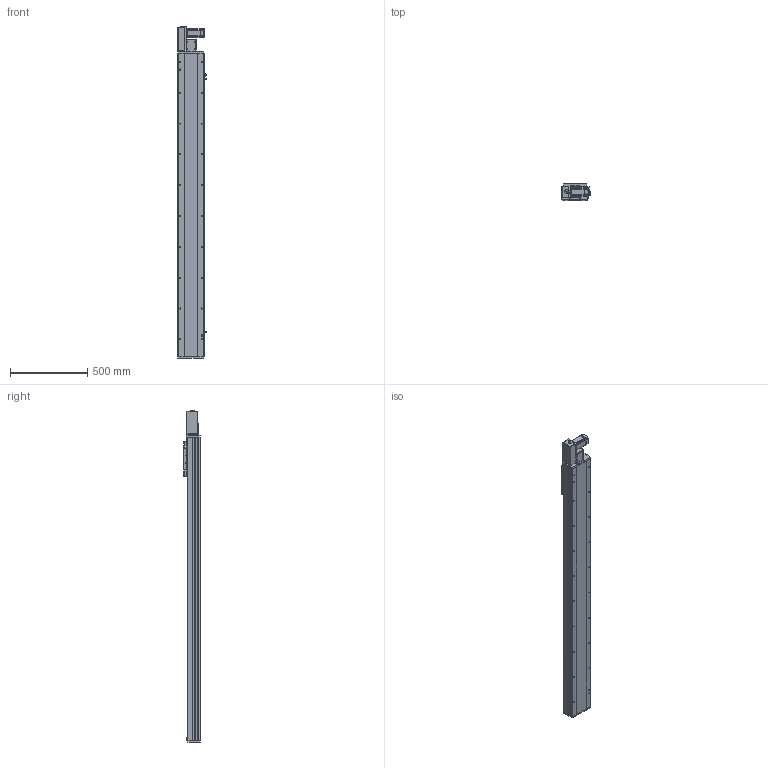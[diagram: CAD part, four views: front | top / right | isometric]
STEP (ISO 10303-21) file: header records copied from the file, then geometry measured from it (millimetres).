
FILE_DESCRIPTION (( 'STEP AP214' ), '1' );
FILE_NAME ('TPE17-L40-1650-L-T40-C4.STEP', '2023-04-12T02:29:18', ( '' ), ( '' ), 'SwSTEP 2.0', 'SolidWorks 2020', '' );
FILE_SCHEMA (( 'AUTOMOTIVE_DESIGN' ));
Length unit declared in the file: millimetre
Products named in the file (12): 葩璃 詩湍110^TPE17-L40-L-T40-C4; hex nuts, style 1-grades ab gb_GB_FASTENER_NUT_SNAB1 M3-N; 葩璃 TPT14-L-009 萇儂啣^TPE17-L40-L-T40-C4_400W; 葩璃 TPE17 賑雄殤^TPE17-L40-L-T40-C4; 葩璃 TPE17-L-007 々湍釱MZ-169x88^TPE17-L40-L-T40-C4_TPE17; 葩璃 pm-t65-672^TPE17-L40-L-T40-C4; 葩璃 TPE17-L-002 耜裔ZTMZ-135-04^TPE17-L40-L-T40-C4; 葩璃 TPE17-L-001 菁釱MZ-170-01^TPE17-L40-L-T40-C4; hexagon socket head cap screws gb_GB_FASTENER_SCREWS_HSHCS M3X6-N; 葩璃 侂狟400W^TPE17-L40-L-T40-C4; TPE17-L40-1650-L-T40-C4; hexagon head bolts-full thread gb_GB_FASTENER_BOLT_STBAB A M5X16-N
Assembly tree (24 placements, depth 2):
  TPE17-L40-1650-L-T40-C4
    葩璃 TPE17-L-001 菁釱MZ-170-01^TPE17-L40-L-T40-C4
    葩璃 TPE17-L-002 耜裔ZTMZ-135-04^TPE17-L40-L-T40-C4  x2
    葩璃 詩湍110^TPE17-L40-L-T40-C4
    葩璃 TPE17-L-007 々湍釱MZ-169x88^TPE17-L40-L-T40-C4_TPE17
    葩璃 TPT14-L-009 萇儂啣^TPE17-L40-L-T40-C4_400W
    葩璃 TPE17 賑雄殤^TPE17-L40-L-T40-C4
    葩璃 pm-t65-672^TPE17-L40-L-T40-C4  x3
    葩璃 侂狟400W^TPE17-L40-L-T40-C4
    hexagon socket head cap screws gb_GB_FASTENER_SCREWS_HSHCS M3X6-N  x6
    hex nuts, style 1-grades ab gb_GB_FASTENER_NUT_SNAB1 M3-N  x6
    hexagon head bolts-full thread gb_GB_FASTENER_BOLT_STBAB A M5X16-N
Bounding box: 183.7 x 107 x 2153.65 mm (x, y, z)
Volume: 18362185.3 mm3; surface area: 2387649.6 mm2
Topology: 35 solids, 35 shells, 1722 faces, 4387 edges, 2758 vertices
Faces by surface type: plane 981, cylinder 477, cone 218, bspline 34, torus 12
Entity records: 40607 total; most frequent: CARTESIAN_POINT 7922, DIRECTION 6512, ORIENTED_EDGE 6278, EDGE_CURVE 3139, AXIS2_PLACEMENT_3D 2221, LINE 2070, VECTOR 2070, VERTEX_POINT 2021
